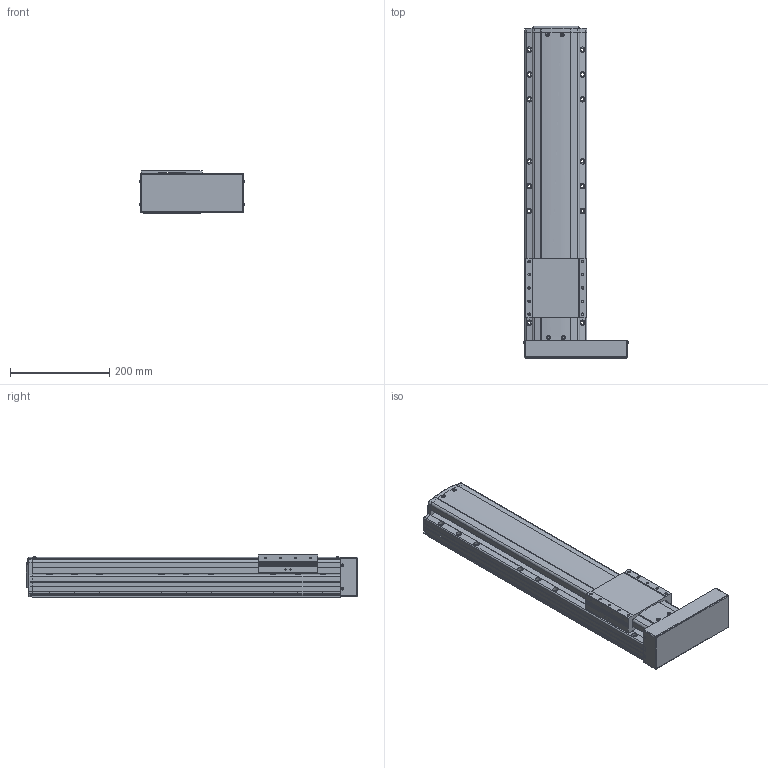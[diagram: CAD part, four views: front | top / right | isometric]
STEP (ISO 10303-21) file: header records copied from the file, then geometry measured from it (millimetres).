
FILE_DESCRIPTION(('STEP AP214'),'1');
FILE_NAME('Z:/Web/3D/PSA125/STP/PSA125-400 (3D)/PSA125ㅁㅁ-400PR.stp','2014-06-22T23:58:36',(' '),(' '),'Spatial InterOp 3D',' ',' ');
FILE_SCHEMA(('automotive_design'));
Length unit declared in the file: millimetre
Products named in the file (23): 스크루 : Round - M4.0 x 10.0; RRCV-PA120; SLIDE; BASE; FRCV-PA120-1(기준 뿔 제거); RR1500; 스크루 : Round - M4.0 x 6.0; 너트 : Square - M10.0 x 220.7419; BTCV - 60A; 스크루 : Round - M3.0 x 6.0
Bounding box: 212.13 x 668.6 x 86 mm (x, y, z)
Volume: 5959878.6 mm3; surface area: 520300.3 mm2
Topology: 23 solids, 23 shells, 1946 faces, 5217 edges, 3318 vertices
Faces by surface type: plane 1054, cylinder 580, cone 212, sphere 44, bspline 31, torus 25
Entity records: 78046 total; most frequent: CARTESIAN_POINT 13152, DIRECTION 10309, ORIENTED_EDGE 10174, EDGE_CURVE 5087, AXIS2_PLACEMENT_3D 3448, LINE 3413, VECTOR 3413, VERTEX_POINT 3318
